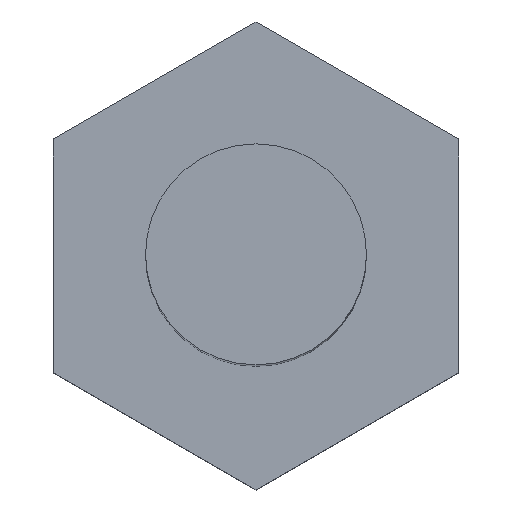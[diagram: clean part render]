
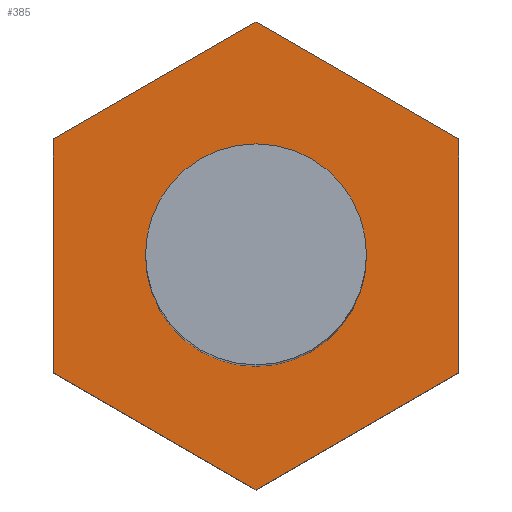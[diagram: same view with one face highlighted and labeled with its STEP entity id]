
A CAD part, top view. The second image highlights one B-rep face of the part: STEP entity #385.
In plain terms, the highlighted planar face has unit normal (0, 0, 1).
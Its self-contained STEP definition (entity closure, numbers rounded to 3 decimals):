
#42 = VERTEX_POINT('',#43);
#43 = CARTESIAN_POINT('',(2.75,1.588,0.));
#50 = PLANE('',#51);
#51 = AXIS2_PLACEMENT_3D('',#52,#53,#54);
#52 = CARTESIAN_POINT('',(2.75,1.588,-2.));
#53 = DIRECTION('',(-0.5,-0.866,0.));
#54 = DIRECTION('',(-0.866,0.5,0.));
#62 = PLANE('',#63);
#63 = AXIS2_PLACEMENT_3D('',#64,#65,#66);
#64 = CARTESIAN_POINT('',(2.75,-1.588,-2.));
#65 = DIRECTION('',(-1.,0.,0.));
#66 = DIRECTION('',(0.,1.,0.));
#74 = EDGE_CURVE('',#42,#75,#77,.T.);
#75 = VERTEX_POINT('',#76);
#76 = CARTESIAN_POINT('',(0.,3.175,0.));
#77 = SURFACE_CURVE('',#78,(#82,#89),.PCURVE_S1.);
#78 = LINE('',#79,#80);
#79 = CARTESIAN_POINT('',(2.75,1.588,0.));
#80 = VECTOR('',#81,1.);
#81 = DIRECTION('',(-0.866,0.5,0.));
#82 = PCURVE('',#50,#83);
#83 = DEFINITIONAL_REPRESENTATION('',(#84),#88);
#84 = LINE('',#85,#86);
#85 = CARTESIAN_POINT('',(0.,-2.));
#86 = VECTOR('',#87,1.);
#87 = DIRECTION('',(1.,0.));
#88 = ( GEOMETRIC_REPRESENTATION_CONTEXT(2) 
PARAMETRIC_REPRESENTATION_CONTEXT() REPRESENTATION_CONTEXT('2D SPACE',''
  ) );
#89 = PCURVE('',#90,#95);
#90 = PLANE('',#91);
#91 = AXIS2_PLACEMENT_3D('',#92,#93,#94);
#92 = CARTESIAN_POINT('',(0.,0.,0.));
#93 = DIRECTION('',(0.,0.,1.));
#94 = DIRECTION('',(1.,0.,-0.));
#95 = DEFINITIONAL_REPRESENTATION('',(#96),#100);
#96 = LINE('',#97,#98);
#97 = CARTESIAN_POINT('',(2.75,1.588));
#98 = VECTOR('',#99,1.);
#99 = DIRECTION('',(-0.866,0.5));
#100 = ( GEOMETRIC_REPRESENTATION_CONTEXT(2) 
PARAMETRIC_REPRESENTATION_CONTEXT() REPRESENTATION_CONTEXT('2D SPACE',''
  ) );
#118 = PLANE('',#119);
#119 = AXIS2_PLACEMENT_3D('',#120,#121,#122);
#120 = CARTESIAN_POINT('',(0.,3.175,-2.));
#121 = DIRECTION('',(0.5,-0.866,0.));
#122 = DIRECTION('',(-0.866,-0.5,0.));
#162 = VERTEX_POINT('',#163);
#163 = CARTESIAN_POINT('',(2.75,-1.588,0.));
#177 = PLANE('',#178);
#178 = AXIS2_PLACEMENT_3D('',#179,#180,#181);
#179 = CARTESIAN_POINT('',(0.,-3.175,-2.));
#180 = DIRECTION('',(-0.5,0.866,0.));
#181 = DIRECTION('',(0.866,0.5,0.));
#189 = EDGE_CURVE('',#162,#42,#190,.T.);
#190 = SURFACE_CURVE('',#191,(#195,#202),.PCURVE_S1.);
#191 = LINE('',#192,#193);
#192 = CARTESIAN_POINT('',(2.75,-1.588,0.));
#193 = VECTOR('',#194,1.);
#194 = DIRECTION('',(0.,1.,0.));
#195 = PCURVE('',#62,#196);
#196 = DEFINITIONAL_REPRESENTATION('',(#197),#201);
#197 = LINE('',#198,#199);
#198 = CARTESIAN_POINT('',(0.,-2.));
#199 = VECTOR('',#200,1.);
#200 = DIRECTION('',(1.,0.));
#201 = ( GEOMETRIC_REPRESENTATION_CONTEXT(2) 
PARAMETRIC_REPRESENTATION_CONTEXT() REPRESENTATION_CONTEXT('2D SPACE',''
  ) );
#202 = PCURVE('',#90,#203);
#203 = DEFINITIONAL_REPRESENTATION('',(#204),#208);
#204 = LINE('',#205,#206);
#205 = CARTESIAN_POINT('',(2.75,-1.588));
#206 = VECTOR('',#207,1.);
#207 = DIRECTION('',(0.,1.));
#208 = ( GEOMETRIC_REPRESENTATION_CONTEXT(2) 
PARAMETRIC_REPRESENTATION_CONTEXT() REPRESENTATION_CONTEXT('2D SPACE',''
  ) );
#236 = EDGE_CURVE('',#75,#237,#239,.T.);
#237 = VERTEX_POINT('',#238);
#238 = CARTESIAN_POINT('',(-2.75,1.588,0.));
#239 = SURFACE_CURVE('',#240,(#244,#251),.PCURVE_S1.);
#240 = LINE('',#241,#242);
#241 = CARTESIAN_POINT('',(0.,3.175,0.));
#242 = VECTOR('',#243,1.);
#243 = DIRECTION('',(-0.866,-0.5,0.));
#244 = PCURVE('',#118,#245);
#245 = DEFINITIONAL_REPRESENTATION('',(#246),#250);
#246 = LINE('',#247,#248);
#247 = CARTESIAN_POINT('',(0.,-2.));
#248 = VECTOR('',#249,1.);
#249 = DIRECTION('',(1.,0.));
#250 = ( GEOMETRIC_REPRESENTATION_CONTEXT(2) 
PARAMETRIC_REPRESENTATION_CONTEXT() REPRESENTATION_CONTEXT('2D SPACE',''
  ) );
#251 = PCURVE('',#90,#252);
#252 = DEFINITIONAL_REPRESENTATION('',(#253),#257);
#253 = LINE('',#254,#255);
#254 = CARTESIAN_POINT('',(0.,3.175));
#255 = VECTOR('',#256,1.);
#256 = DIRECTION('',(-0.866,-0.5));
#257 = ( GEOMETRIC_REPRESENTATION_CONTEXT(2) 
PARAMETRIC_REPRESENTATION_CONTEXT() REPRESENTATION_CONTEXT('2D SPACE',''
  ) );
#275 = PLANE('',#276);
#276 = AXIS2_PLACEMENT_3D('',#277,#278,#279);
#277 = CARTESIAN_POINT('',(-2.75,1.588,-2.));
#278 = DIRECTION('',(1.,0.,-0.));
#279 = DIRECTION('',(0.,-1.,0.));
#352 = PLANE('',#353);
#353 = AXIS2_PLACEMENT_3D('',#354,#355,#356);
#354 = CARTESIAN_POINT('',(-2.75,-1.588,-2.));
#355 = DIRECTION('',(0.5,0.866,-0.));
#356 = DIRECTION('',(0.866,-0.5,0.));
#385 = ADVANCED_FACE('',(#386,#458),#90,.T.);
#386 = FACE_BOUND('',#387,.T.);
#387 = EDGE_LOOP('',(#388,#389,#390,#413,#436,#457));
#388 = ORIENTED_EDGE('',*,*,#74,.T.);
#389 = ORIENTED_EDGE('',*,*,#236,.T.);
#390 = ORIENTED_EDGE('',*,*,#391,.T.);
#391 = EDGE_CURVE('',#237,#392,#394,.T.);
#392 = VERTEX_POINT('',#393);
#393 = CARTESIAN_POINT('',(-2.75,-1.588,0.));
#394 = SURFACE_CURVE('',#395,(#399,#406),.PCURVE_S1.);
#395 = LINE('',#396,#397);
#396 = CARTESIAN_POINT('',(-2.75,1.588,0.));
#397 = VECTOR('',#398,1.);
#398 = DIRECTION('',(0.,-1.,0.));
#399 = PCURVE('',#90,#400);
#400 = DEFINITIONAL_REPRESENTATION('',(#401),#405);
#401 = LINE('',#402,#403);
#402 = CARTESIAN_POINT('',(-2.75,1.588));
#403 = VECTOR('',#404,1.);
#404 = DIRECTION('',(0.,-1.));
#405 = ( GEOMETRIC_REPRESENTATION_CONTEXT(2) 
PARAMETRIC_REPRESENTATION_CONTEXT() REPRESENTATION_CONTEXT('2D SPACE',''
  ) );
#406 = PCURVE('',#275,#407);
#407 = DEFINITIONAL_REPRESENTATION('',(#408),#412);
#408 = LINE('',#409,#410);
#409 = CARTESIAN_POINT('',(0.,-2.));
#410 = VECTOR('',#411,1.);
#411 = DIRECTION('',(1.,0.));
#412 = ( GEOMETRIC_REPRESENTATION_CONTEXT(2) 
PARAMETRIC_REPRESENTATION_CONTEXT() REPRESENTATION_CONTEXT('2D SPACE',''
  ) );
#413 = ORIENTED_EDGE('',*,*,#414,.T.);
#414 = EDGE_CURVE('',#392,#415,#417,.T.);
#415 = VERTEX_POINT('',#416);
#416 = CARTESIAN_POINT('',(0.,-3.175,0.));
#417 = SURFACE_CURVE('',#418,(#422,#429),.PCURVE_S1.);
#418 = LINE('',#419,#420);
#419 = CARTESIAN_POINT('',(-2.75,-1.588,0.));
#420 = VECTOR('',#421,1.);
#421 = DIRECTION('',(0.866,-0.5,0.));
#422 = PCURVE('',#90,#423);
#423 = DEFINITIONAL_REPRESENTATION('',(#424),#428);
#424 = LINE('',#425,#426);
#425 = CARTESIAN_POINT('',(-2.75,-1.588));
#426 = VECTOR('',#427,1.);
#427 = DIRECTION('',(0.866,-0.5));
#428 = ( GEOMETRIC_REPRESENTATION_CONTEXT(2) 
PARAMETRIC_REPRESENTATION_CONTEXT() REPRESENTATION_CONTEXT('2D SPACE',''
  ) );
#429 = PCURVE('',#352,#430);
#430 = DEFINITIONAL_REPRESENTATION('',(#431),#435);
#431 = LINE('',#432,#433);
#432 = CARTESIAN_POINT('',(0.,-2.));
#433 = VECTOR('',#434,1.);
#434 = DIRECTION('',(1.,0.));
#435 = ( GEOMETRIC_REPRESENTATION_CONTEXT(2) 
PARAMETRIC_REPRESENTATION_CONTEXT() REPRESENTATION_CONTEXT('2D SPACE',''
  ) );
#436 = ORIENTED_EDGE('',*,*,#437,.T.);
#437 = EDGE_CURVE('',#415,#162,#438,.T.);
#438 = SURFACE_CURVE('',#439,(#443,#450),.PCURVE_S1.);
#439 = LINE('',#440,#441);
#440 = CARTESIAN_POINT('',(0.,-3.175,0.));
#441 = VECTOR('',#442,1.);
#442 = DIRECTION('',(0.866,0.5,0.));
#443 = PCURVE('',#90,#444);
#444 = DEFINITIONAL_REPRESENTATION('',(#445),#449);
#445 = LINE('',#446,#447);
#446 = CARTESIAN_POINT('',(0.,-3.175));
#447 = VECTOR('',#448,1.);
#448 = DIRECTION('',(0.866,0.5));
#449 = ( GEOMETRIC_REPRESENTATION_CONTEXT(2) 
PARAMETRIC_REPRESENTATION_CONTEXT() REPRESENTATION_CONTEXT('2D SPACE',''
  ) );
#450 = PCURVE('',#177,#451);
#451 = DEFINITIONAL_REPRESENTATION('',(#452),#456);
#452 = LINE('',#453,#454);
#453 = CARTESIAN_POINT('',(0.,-2.));
#454 = VECTOR('',#455,1.);
#455 = DIRECTION('',(1.,0.));
#456 = ( GEOMETRIC_REPRESENTATION_CONTEXT(2) 
PARAMETRIC_REPRESENTATION_CONTEXT() REPRESENTATION_CONTEXT('2D SPACE',''
  ) );
#457 = ORIENTED_EDGE('',*,*,#189,.T.);
#458 = FACE_BOUND('',#459,.T.);
#459 = EDGE_LOOP('',(#460));
#460 = ORIENTED_EDGE('',*,*,#461,.F.);
#461 = EDGE_CURVE('',#462,#462,#464,.T.);
#462 = VERTEX_POINT('',#463);
#463 = CARTESIAN_POINT('',(1.5,0.,0.));
#464 = SURFACE_CURVE('',#465,(#470,#477),.PCURVE_S1.);
#465 = CIRCLE('',#466,1.5);
#466 = AXIS2_PLACEMENT_3D('',#467,#468,#469);
#467 = CARTESIAN_POINT('',(0.,0.,0.));
#468 = DIRECTION('',(0.,0.,1.));
#469 = DIRECTION('',(1.,0.,-0.));
#470 = PCURVE('',#90,#471);
#471 = DEFINITIONAL_REPRESENTATION('',(#472),#476);
#472 = CIRCLE('',#473,1.5);
#473 = AXIS2_PLACEMENT_2D('',#474,#475);
#474 = CARTESIAN_POINT('',(0.,0.));
#475 = DIRECTION('',(1.,0.));
#476 = ( GEOMETRIC_REPRESENTATION_CONTEXT(2) 
PARAMETRIC_REPRESENTATION_CONTEXT() REPRESENTATION_CONTEXT('2D SPACE',''
  ) );
#477 = PCURVE('',#478,#483);
#478 = CYLINDRICAL_SURFACE('',#479,1.5);
#479 = AXIS2_PLACEMENT_3D('',#480,#481,#482);
#480 = CARTESIAN_POINT('',(0.,0.,-0.01));
#481 = DIRECTION('',(0.,0.,1.));
#482 = DIRECTION('',(1.,0.,-0.));
#483 = DEFINITIONAL_REPRESENTATION('',(#484),#488);
#484 = LINE('',#485,#486);
#485 = CARTESIAN_POINT('',(0.,0.01));
#486 = VECTOR('',#487,1.);
#487 = DIRECTION('',(1.,0.));
#488 = ( GEOMETRIC_REPRESENTATION_CONTEXT(2) 
PARAMETRIC_REPRESENTATION_CONTEXT() REPRESENTATION_CONTEXT('2D SPACE',''
  ) );
